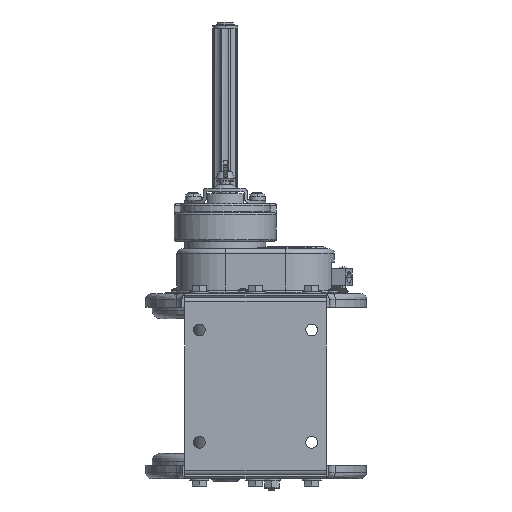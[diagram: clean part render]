
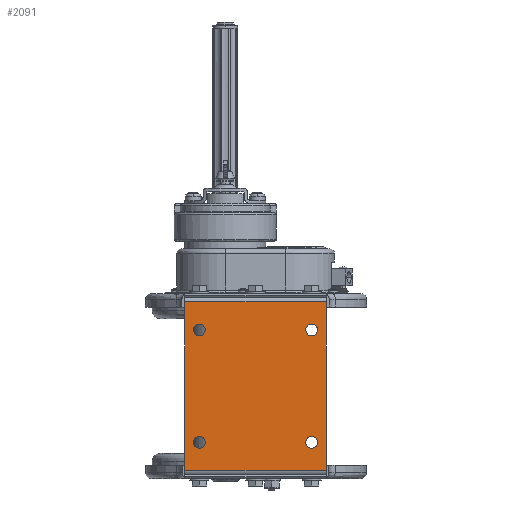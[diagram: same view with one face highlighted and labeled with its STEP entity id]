
A CAD part, front view. The second image highlights one B-rep face of the part: STEP entity #2091.
In plain terms, the highlighted planar face has unit normal (0, -1, 0).
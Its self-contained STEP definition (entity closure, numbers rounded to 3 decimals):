
#2091=ADVANCED_FACE('',(#22712,#22713,#22714,#22715,#22716),#22711,.F.);
#22711=PLANE('',#42956);
#22712=FACE_OUTER_BOUND('',#42957,.T.);
#22713=FACE_BOUND('',#42958,.T.);
#22714=FACE_BOUND('',#42959,.T.);
#22715=FACE_BOUND('',#42960,.T.);
#22716=FACE_BOUND('',#42961,.T.);
#42953=CARTESIAN_POINT('',(284.159,428.345,335.9));
#42954=DIRECTION('',(0.,1.,0.));
#42955=DIRECTION('',(0.,0.,1.));
#42956=AXIS2_PLACEMENT_3D('',#42953,#42954,#42955);
#42957=EDGE_LOOP('',(#58106,#58107,#58108,#58109));
#42958=EDGE_LOOP('',(#58110,#58111));
#42959=EDGE_LOOP('',(#58112,#58113));
#42960=EDGE_LOOP('',(#58114,#58115));
#42961=EDGE_LOOP('',(#58116,#58117));
#58106=ORIENTED_EDGE('',*,*,#67100,.F.);
#58107=ORIENTED_EDGE('',*,*,#67091,.F.);
#58108=ORIENTED_EDGE('',*,*,#67101,.T.);
#58109=ORIENTED_EDGE('',*,*,#64552,.T.);
#58110=ORIENTED_EDGE('',*,*,#67102,.T.);
#58111=ORIENTED_EDGE('',*,*,#67103,.T.);
#58112=ORIENTED_EDGE('',*,*,#67104,.T.);
#58113=ORIENTED_EDGE('',*,*,#67105,.T.);
#58114=ORIENTED_EDGE('',*,*,#67106,.T.);
#58115=ORIENTED_EDGE('',*,*,#67107,.T.);
#58116=ORIENTED_EDGE('',*,*,#67108,.T.);
#58117=ORIENTED_EDGE('',*,*,#67109,.T.);
#64552=EDGE_CURVE('',#88835,#88828,#88836,.T.);
#67091=EDGE_CURVE('',#105745,#105752,#105753,.T.);
#67100=EDGE_CURVE('',#105752,#88828,#105812,.T.);
#67101=EDGE_CURVE('',#105745,#88835,#105818,.T.);
#67102=EDGE_CURVE('',#105824,#105825,#105826,.T.);
#67103=EDGE_CURVE('',#105825,#105824,#105832,.T.);
#67104=EDGE_CURVE('',#105838,#105839,#105840,.T.);
#67105=EDGE_CURVE('',#105839,#105838,#105846,.T.);
#67106=EDGE_CURVE('',#105852,#105853,#105854,.T.);
#67107=EDGE_CURVE('',#105853,#105852,#105860,.T.);
#67108=EDGE_CURVE('',#105866,#105867,#105868,.T.);
#67109=EDGE_CURVE('',#105867,#105866,#105874,.T.);
#88828=VERTEX_POINT('',#126061);
#88835=VERTEX_POINT('',#126066);
#88836=LINE('',#126067,#126068);
#105745=VERTEX_POINT('',#137706);
#105752=VERTEX_POINT('',#137711);
#105753=LINE('',#137712,#137713);
#105812=LINE('',#137747,#137748);
#105818=LINE('',#137750,#137751);
#105824=VERTEX_POINT('',#137753);
#105825=VERTEX_POINT('',#137754);
#105826=CIRCLE('',#137758,5.25);
#105832=CIRCLE('',#137762,5.25);
#105838=VERTEX_POINT('',#137763);
#105839=VERTEX_POINT('',#137764);
#105840=CIRCLE('',#137768,5.25);
#105846=CIRCLE('',#137772,5.25);
#105852=VERTEX_POINT('',#137773);
#105853=VERTEX_POINT('',#137774);
#105854=CIRCLE('',#137778,5.25);
#105860=CIRCLE('',#137782,5.25);
#105866=VERTEX_POINT('',#137783);
#105867=VERTEX_POINT('',#137784);
#105868=CIRCLE('',#137788,5.25);
#105874=CIRCLE('',#137792,5.25);
#126061=CARTESIAN_POINT('',(294.159,428.345,345.9));
#126066=CARTESIAN_POINT('',(294.159,428.345,495.9));
#126067=CARTESIAN_POINT('',(294.159,428.345,495.9));
#126068=VECTOR('',#126069,150.);
#126069=DIRECTION('',(0.,0.,-1.));
#137706=CARTESIAN_POINT('',(420.159,428.345,495.9));
#137711=CARTESIAN_POINT('',(420.159,428.345,345.9));
#137712=CARTESIAN_POINT('',(420.159,428.345,495.9));
#137713=VECTOR('',#137714,150.);
#137714=DIRECTION('',(0.,0.,-1.));
#137747=CARTESIAN_POINT('',(420.159,428.345,345.9));
#137748=VECTOR('',#137749,126.);
#137749=DIRECTION('',(-1.,0.,0.));
#137750=CARTESIAN_POINT('',(420.159,428.345,495.9));
#137751=VECTOR('',#137752,126.);
#137752=DIRECTION('',(-1.,0.,0.));
#137753=CARTESIAN_POINT('',(307.159,428.345,376.15));
#137754=CARTESIAN_POINT('',(307.159,428.345,365.65));
#137755=CARTESIAN_POINT('',(307.159,428.345,370.9));
#137756=DIRECTION('',(0.,1.,0.));
#137757=DIRECTION('',(0.,0.,1.));
#137758=AXIS2_PLACEMENT_3D('',#137755,#137756,#137757);
#137759=CARTESIAN_POINT('',(307.159,428.345,370.9));
#137760=DIRECTION('',(0.,1.,0.));
#137761=DIRECTION('',(0.,0.,1.));
#137762=AXIS2_PLACEMENT_3D('',#137759,#137760,#137761);
#137763=CARTESIAN_POINT('',(407.159,428.345,376.15));
#137764=CARTESIAN_POINT('',(407.159,428.345,365.65));
#137765=CARTESIAN_POINT('',(407.159,428.345,370.9));
#137766=DIRECTION('',(0.,1.,0.));
#137767=DIRECTION('',(0.,0.,1.));
#137768=AXIS2_PLACEMENT_3D('',#137765,#137766,#137767);
#137769=CARTESIAN_POINT('',(407.159,428.345,370.9));
#137770=DIRECTION('',(0.,1.,0.));
#137771=DIRECTION('',(0.,0.,1.));
#137772=AXIS2_PLACEMENT_3D('',#137769,#137770,#137771);
#137773=CARTESIAN_POINT('',(407.159,428.345,476.15));
#137774=CARTESIAN_POINT('',(407.159,428.345,465.65));
#137775=CARTESIAN_POINT('',(407.159,428.345,470.9));
#137776=DIRECTION('',(0.,1.,0.));
#137777=DIRECTION('',(0.,0.,1.));
#137778=AXIS2_PLACEMENT_3D('',#137775,#137776,#137777);
#137779=CARTESIAN_POINT('',(407.159,428.345,470.9));
#137780=DIRECTION('',(0.,1.,0.));
#137781=DIRECTION('',(0.,0.,1.));
#137782=AXIS2_PLACEMENT_3D('',#137779,#137780,#137781);
#137783=CARTESIAN_POINT('',(307.159,428.345,476.15));
#137784=CARTESIAN_POINT('',(307.159,428.345,465.65));
#137785=CARTESIAN_POINT('',(307.159,428.345,470.9));
#137786=DIRECTION('',(0.,1.,0.));
#137787=DIRECTION('',(0.,0.,1.));
#137788=AXIS2_PLACEMENT_3D('',#137785,#137786,#137787);
#137789=CARTESIAN_POINT('',(307.159,428.345,470.9));
#137790=DIRECTION('',(0.,1.,0.));
#137791=DIRECTION('',(0.,0.,1.));
#137792=AXIS2_PLACEMENT_3D('',#137789,#137790,#137791);
